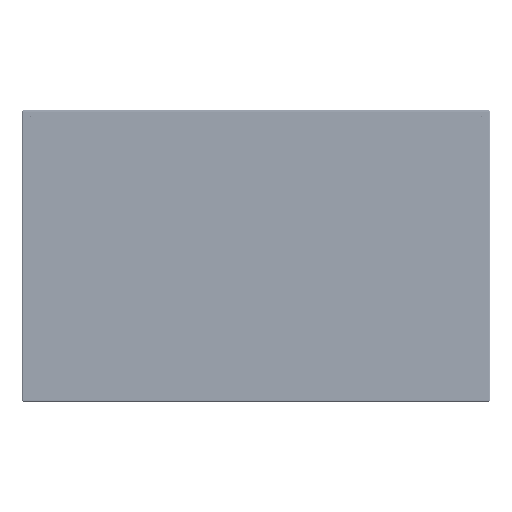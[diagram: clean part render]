
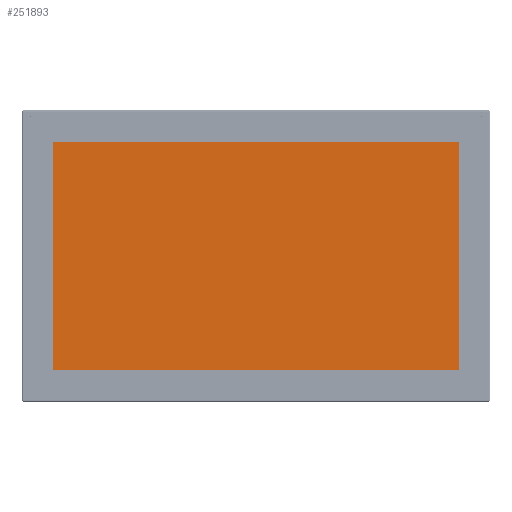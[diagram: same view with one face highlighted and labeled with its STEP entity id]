
A CAD part, top view. The second image highlights one B-rep face of the part: STEP entity #251893.
In plain terms, the highlighted planar face has unit normal (0, 0, 1).
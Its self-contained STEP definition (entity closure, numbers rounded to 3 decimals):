
#57708 = VECTOR ( 'NONE', #319791, 1000. ) ;
#67543 = EDGE_LOOP ( 'NONE', ( #338231, #273761, #479659, #269054 ) ) ;
#72676 = LINE ( 'NONE', #666397, #475963 ) ;
#76326 = DIRECTION ( 'NONE',  ( 1., 0., 0. ) ) ;
#106975 = DIRECTION ( 'NONE',  ( 0., 0., 1. ) ) ;
#112819 = FACE_OUTER_BOUND ( 'NONE', #67543, .T. ) ;
#173515 = VERTEX_POINT ( 'NONE', #473678 ) ;
#211883 = LINE ( 'NONE', #485063, #57708 ) ;
#212648 = LINE ( 'NONE', #432789, #565002 ) ;
#221769 = DIRECTION ( 'NONE',  ( 0., 1., 0. ) ) ;
#230112 = CARTESIAN_POINT ( 'NONE',  ( -172.716, -97.395, 0. ) ) ;
#244888 = EDGE_CURVE ( 'NONE', #276530, #384447, #72676, .T. ) ;
#251893 = ADVANCED_FACE ( 'NONE', ( #112819 ), #478880, .T. ) ;
#269054 = ORIENTED_EDGE ( 'NONE', *, *, #296466, .T. ) ;
#273761 = ORIENTED_EDGE ( 'NONE', *, *, #591698, .T. ) ;
#276530 = VERTEX_POINT ( 'NONE', #659332 ) ;
#296466 = EDGE_CURVE ( 'NONE', #173515, #276530, #211883, .T. ) ;
#316098 = VERTEX_POINT ( 'NONE', #453459 ) ;
#319791 = DIRECTION ( 'NONE',  ( -1., 0., 0. ) ) ;
#338231 = ORIENTED_EDGE ( 'NONE', *, *, #244888, .T. ) ;
#370968 = CARTESIAN_POINT ( 'NONE',  ( 0., 0., 0. ) ) ;
#384447 = VERTEX_POINT ( 'NONE', #542251 ) ;
#432789 = CARTESIAN_POINT ( 'NONE',  ( 172.716, 97.395, 0. ) ) ;
#453459 = CARTESIAN_POINT ( 'NONE',  ( 172.716, -97.395, 0. ) ) ;
#463904 = AXIS2_PLACEMENT_3D ( 'NONE', #370968, #106975, #596445 ) ;
#473678 = CARTESIAN_POINT ( 'NONE',  ( 172.716, 97.395, 0. ) ) ;
#475963 = VECTOR ( 'NONE', #550993, 1000. ) ;
#478880 = PLANE ( 'NONE',  #463904 ) ;
#479659 = ORIENTED_EDGE ( 'NONE', *, *, #685567, .T. ) ;
#485063 = CARTESIAN_POINT ( 'NONE',  ( -172.716, 97.395, 0. ) ) ;
#513694 = VECTOR ( 'NONE', #76326, 1000. ) ;
#542251 = CARTESIAN_POINT ( 'NONE',  ( -172.716, -97.395, 0. ) ) ;
#550993 = DIRECTION ( 'NONE',  ( 0., -1., 0. ) ) ;
#565002 = VECTOR ( 'NONE', #221769, 1000. ) ;
#591698 = EDGE_CURVE ( 'NONE', #384447, #316098, #659968, .T. ) ;
#596445 = DIRECTION ( 'NONE',  ( 1., 0., 0. ) ) ;
#659332 = CARTESIAN_POINT ( 'NONE',  ( -172.716, 97.395, 0. ) ) ;
#659968 = LINE ( 'NONE', #230112, #513694 ) ;
#666397 = CARTESIAN_POINT ( 'NONE',  ( -172.716, 97.395, 0. ) ) ;
#685567 = EDGE_CURVE ( 'NONE', #316098, #173515, #212648, .T. ) ;
